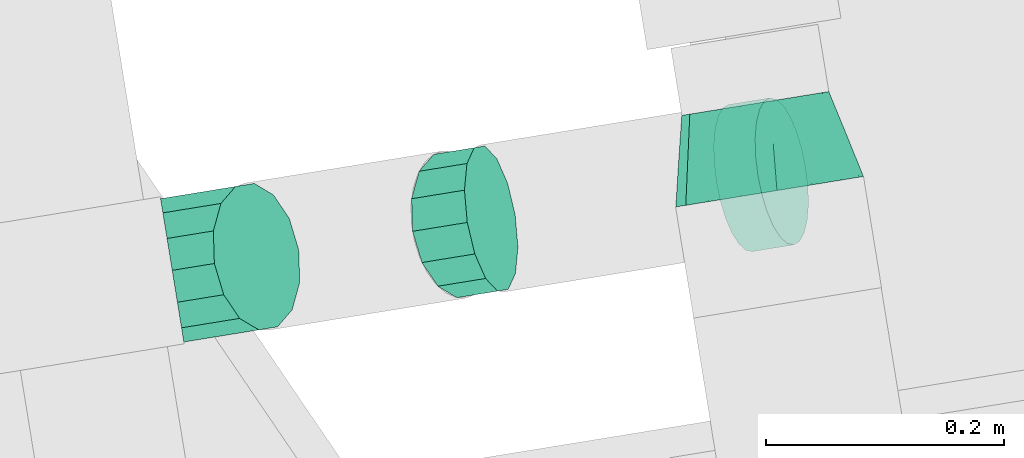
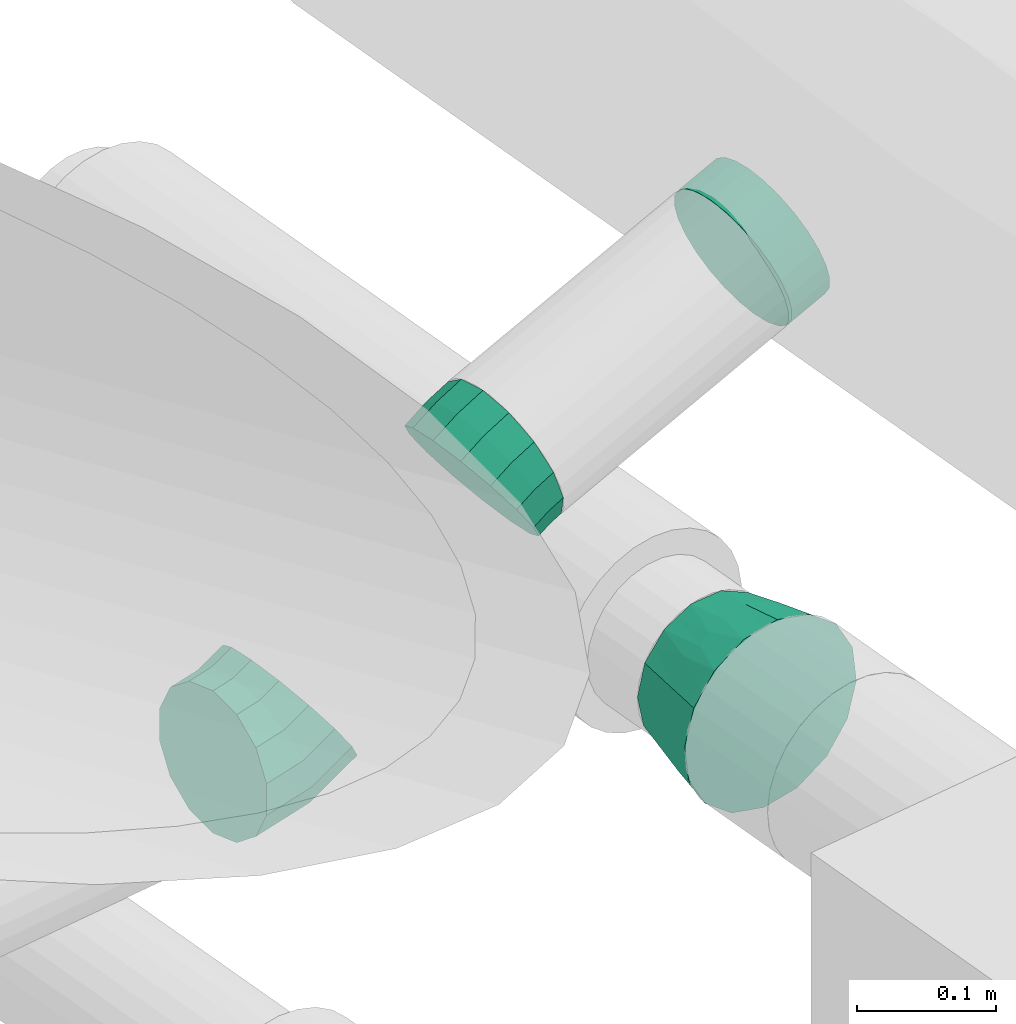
# One storey, part 32 of 39: 4 flow fittings.
"""IFC2X3 building model written with IfcOpenShell, lengths in millimetres."""

from ifc_helpers import new_model, entity, si_unit, converted_unit, derived_unit, direction, frame, origin, origin_with_axes, place, context, subcontext, project, spatial, faceted_brep, source, transform, mapped, material, type_object, element, save


model = new_model("IFC2X3")

# Units and contexts
plan_context = context("Plan", 3, precision=1e-05, world=origin_with_axes())
model_context = context("Model", 3, precision=0.01, world=origin(), true_north=direction((6.12323399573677e-17, 1.0)))
body_context = subcontext(model_context, "Body", "Model", "MODEL_VIEW")
ifc_project = project(units=[converted_unit("PLANEANGLEUNIT", "DEGREE", entity("IfcPositiveLengthMeasure", 0.0174532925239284), si_unit("PLANEANGLEUNIT", "RADIAN"), dimensions=[0, 0, 0, 0, 0, 0, 0]), si_unit("AREAUNIT", "SQUARE_METRE"), si_unit("LENGTHUNIT", "METRE", prefix="MILLI"), si_unit("MASSUNIT", "GRAM", prefix="KILO"), si_unit("POWERUNIT", "WATT"), si_unit("PRESSUREUNIT", "PASCAL", prefix="KILO"), si_unit("FORCEUNIT", "NEWTON", prefix="KILO"), si_unit("ELECTRICVOLTAGEUNIT", "VOLT"), si_unit("ELECTRICCURRENTUNIT", "AMPERE"), si_unit("THERMODYNAMICTEMPERATUREUNIT", "DEGREE_CELSIUS"), si_unit("TIMEUNIT", "SECOND"), si_unit("VOLUMEUNIT", "CUBIC_METRE"), derived_unit("LINEARVELOCITYUNIT", [(si_unit("LENGTHUNIT", "METRE"), 1), (si_unit("TIMEUNIT", "SECOND"), -1)]), derived_unit("VOLUMETRICFLOWRATEUNIT", [(si_unit("VOLUMEUNIT", "CUBIC_METRE"), 1), (si_unit("TIMEUNIT", "SECOND"), -1)]), derived_unit("THERMALTRANSMITTANCEUNIT", [(si_unit("POWERUNIT", "WATT"), 1), (si_unit("THERMODYNAMICTEMPERATUREUNIT", "KELVIN"), -1), (si_unit("AREAUNIT", "SQUARE_METRE"), -1)]), derived_unit("SOUNDPRESSUREUNIT", [(si_unit("PRESSUREUNIT", "PASCAL"), 1)])], contexts=[model_context, plan_context])

# Site, building, storey
site_placement = place(None, frame((-0.00071070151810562, 0.00438415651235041, 0.0), z_axis=(0.0, 0.0, 1.0), x_axis=(-0.160236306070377, 0.987078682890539, 0.0)))
site = spatial("IfcSite", under=ifc_project, at=site_placement, Name="Default", CompositionType="ELEMENT")
building_placement = place(site_placement, origin_with_axes())
building = spatial("IfcBuilding", under=site, at=building_placement, CompositionType="ELEMENT")
storey_placement = place(building_placement, frame((0.0, 0.0, 58999.9999999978), z_axis=(0.0, 0.0, 1.0), x_axis=(1.0, 0.0, 0.0)))
storey = spatial("IfcBuildingStorey", under=building, at=storey_placement, Name="Nivå F", CompositionType="ELEMENT", Elevation=58999.9999999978)

# Flow fittings
ifc_material_1 = material(Name="Material_Duct")
duct_fitting_type_1 = type_object("IfcDuctFittingType", Name="magicirc_reduction_001:magicirc_reduction_001", PredefinedType="NOTDEFINED", material=ifc_material_1)
shared_shape_1 = source(origin(), body_context, "Body", "Brep", [
    faceted_brep([(75.0, -38.9694843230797, 48.8651663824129), (75.0, -47.6407051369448, 37.9917994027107), (75.0, -56.3119259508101, 27.1184324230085), (75.0, -59.4066488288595, 13.5595655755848), (75.0, -62.501371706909, 0.000698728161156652), (75.0, -59.4066488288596, -13.5581681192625), (75.0, -56.3119259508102, -27.1170349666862), (75.0, -47.6407051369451, -37.9904019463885), (75.0, -38.96948432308, -48.8637689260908), (75.0, -26.4392072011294, -54.8980323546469), (75.0, -13.9089300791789, -60.932295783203), (75.0, -0.00137170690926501, -60.932295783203), (75.0, 13.9061866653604, -60.9322957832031), (75.0, 26.436463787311, -54.8980323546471), (75.0, 38.9667409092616, -48.8637689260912), (75.0, 47.6379617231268, -37.990401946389), (75.0, 56.3091825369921, -27.1170349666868), (75.0, 59.4039054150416, -13.5581681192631), (75.0, 62.4986282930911, 0.000698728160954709), (75.0, 59.4039054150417, 13.5595655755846), (75.0, 56.3091825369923, 27.1184324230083), (75.0, 47.6379617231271, 37.9917994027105), (75.0, 38.9667409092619, 48.8651663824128), (75.0, 26.4364637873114, 54.8994298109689), (75.0, 13.9061866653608, 60.9336932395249), (75.0, -0.00137170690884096, 60.9336932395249), (75.0, -13.9089300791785, 60.933693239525), (75.0, -26.4392072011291, 54.8994298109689), (0.0, 43.5916085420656, 65.2394525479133), (0.0, 56.5685424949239, 56.5685424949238), (0.0, 65.2394525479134, 43.5916085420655), (0.0, 73.910362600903, 30.6146745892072), (0.0, 77.4365919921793, 12.8871223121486), (0.0, 80.0, 0.0), (0.0, 76.9551813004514, -15.307337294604), (0.0, 73.9103626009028, -30.6146745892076), (0.0, 65.2394525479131, -43.5916085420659), (0.0, 56.5685424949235, -56.5685424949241), (0.0, 43.5916085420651, -65.2394525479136), (0.0, 30.6146745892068, -73.9103626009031), (0.0, 15.3073372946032, -76.9551813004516), (0.0, 0.0, -80.0), (0.0, -15.3073372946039, -76.9551813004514), (0.0, -30.6146745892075, -73.9103626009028), (0.0, -43.5916085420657, -65.2394525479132), (0.0, -56.568542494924, -56.5685424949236), (0.0, -65.2394525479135, -43.5916085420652), (0.0, -73.9103626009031, -30.6146745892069), (0.0, -77.4365972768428, -12.8870957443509), (0.0, -80.0, 0.0), (0.0, -76.9551813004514, 15.3073372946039), (0.0, -73.9103626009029, 30.6146745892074), (0.0, -65.2394525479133, 43.5916085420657), (0.0, -56.5685424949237, 56.5685424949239), (0.0, -43.5916085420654, 65.2394525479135), (0.0, -30.614674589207, 73.910362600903), (0.0, -15.3073372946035, 76.9551813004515), (0.0, 0.0, 80.0), (0.0, 15.3073372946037, 76.9551813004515), (0.0, 30.6146745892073, 73.9103626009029), (39.85366436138, -66.734047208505, -23.3506243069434), (37.5, -71.2506858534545, 0.000349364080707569), (31.965514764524, -72.5419645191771, 0.000297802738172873), (31.0011841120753, -63.522019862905, -35.4958038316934), (37.5000001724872, 7.82711410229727, -70.8183490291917), (38.6205531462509, 22.4581386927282, -67.3418465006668), (35.1463230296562, -55.5021668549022, -45.5485989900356), (34.3819963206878, -44.8982350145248, -56.2577492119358), (39.8536754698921, -23.3517257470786, -66.7329438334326), (37.4208837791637, -8.03029870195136, -70.8143302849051), (31.6636214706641, 35.01740055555, -63.60959216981), (34.8252355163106, 69.1400748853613, -19.6325536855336), (35.5386039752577, 63.2398594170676, -33.8024253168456), (35.1463247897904, 45.5482818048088, -55.5011975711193), (32.9746703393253, 55.8955228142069, -45.8665410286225), (37.5, 71.2493141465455, 0.000349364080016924), (31.9655806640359, 72.5407798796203, 0.000297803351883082), (39.8536643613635, 66.7325894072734, 23.3513668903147), (31.0011841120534, 63.5208858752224, 35.4963814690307), (37.5000001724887, -7.82848580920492, 70.8190477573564), (38.6205531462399, -22.4595513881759, 67.3425661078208), (35.1463230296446, 55.5008812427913, 45.549253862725), (34.3819963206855, 44.8969773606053, 56.2583898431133), (39.853675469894, 23.3502679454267, 66.7336864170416), (37.4208837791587, 8.02892988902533, 70.8150275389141), (31.6636214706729, -35.0185587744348, 63.6101821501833), (34.8252355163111, -69.1413487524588, 19.6332025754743), (35.5386039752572, -63.2411593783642, 33.8030874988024), (35.1463247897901, -45.5495674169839, 55.5018524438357), (32.9746703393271, -55.8967289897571, 45.8671554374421)], [[[0, 1, 2, 3, 4, 5, 6, 7, 8, 9, 10, 11, 12, 13, 14, 15, 16, 17, 18, 19, 20, 21, 22, 23, 24, 25, 26, 27]], [[28, 29, 30, 31, 32, 33, 34, 35, 36, 37, 38, 39, 40, 41, 42, 43, 44, 45, 46, 47, 48, 49, 50, 51, 52, 53, 54, 55, 56, 57, 58, 59]], [[5, 60, 6]], [[5, 4, 61, 62]], [[60, 63, 6]], [[62, 49, 48]], [[64, 40, 65]], [[66, 67, 8]], [[62, 48, 60]], [[60, 5, 62]], [[47, 60, 48]], [[45, 66, 46]], [[44, 68, 67]], [[66, 8, 7]], [[69, 10, 68]], [[47, 46, 63]], [[70, 39, 38]], [[68, 42, 69]], [[16, 71, 17]], [[67, 68, 9]], [[10, 9, 68]], [[71, 72, 35]], [[10, 69, 11]], [[64, 69, 41]], [[12, 64, 65]], [[14, 73, 15]], [[68, 44, 43]], [[63, 7, 6]], [[72, 71, 16]], [[66, 45, 67]], [[67, 9, 8]], [[64, 41, 40]], [[64, 11, 69]], [[66, 63, 46]], [[40, 39, 65]], [[12, 11, 64]], [[67, 45, 44]], [[73, 74, 15]], [[73, 70, 38]], [[13, 65, 70]], [[37, 73, 38]], [[13, 12, 65]], [[70, 14, 13]], [[36, 72, 74]], [[74, 37, 36]], [[35, 72, 36]], [[15, 72, 16]], [[17, 71, 75]], [[71, 35, 34]], [[34, 33, 76, 75]], [[15, 74, 72]], [[37, 74, 73]], [[70, 73, 14]], [[18, 17, 75]], [[39, 70, 65]], [[42, 68, 43]], [[42, 41, 69]], [[63, 66, 7]], [[47, 63, 60]], [[34, 75, 71]], [[19, 77, 20]], [[19, 18, 75, 76]], [[77, 78, 20]], [[76, 33, 32]], [[79, 56, 80]], [[81, 82, 22]], [[76, 32, 77]], [[77, 19, 76]], [[31, 77, 32]], [[29, 81, 30]], [[28, 83, 82]], [[81, 22, 21]], [[84, 24, 83]], [[31, 30, 78]], [[85, 55, 54]], [[83, 58, 84]], [[2, 86, 3]], [[82, 83, 23]], [[24, 23, 83]], [[86, 87, 51]], [[24, 84, 25]], [[79, 84, 57]], [[26, 79, 80]], [[0, 88, 1]], [[83, 28, 59]], [[78, 21, 20]], [[87, 86, 2]], [[81, 29, 82]], [[82, 23, 22]], [[79, 57, 56]], [[79, 25, 84]], [[81, 78, 30]], [[56, 55, 80]], [[26, 25, 79]], [[82, 29, 28]], [[88, 89, 1]], [[88, 85, 54]], [[27, 80, 85]], [[53, 88, 54]], [[27, 26, 80]], [[85, 0, 27]], [[52, 87, 89]], [[89, 53, 52]], [[51, 87, 52]], [[1, 87, 2]], [[3, 86, 61]], [[86, 51, 50]], [[50, 49, 62, 61]], [[1, 89, 87]], [[53, 89, 88]], [[85, 88, 0]], [[4, 3, 61]], [[55, 85, 80]], [[58, 83, 59]], [[58, 57, 84]], [[78, 81, 21]], [[31, 78, 77]], [[50, 61, 86]]]),
])
flow_fitting_1_placement = place(storey_placement, frame((773118.057567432, -503041.020073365, 2617.0), z_axis=(-1.73404774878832e-05, -0.453891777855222, 0.891056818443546), x_axis=(0.999999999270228, -3.82039911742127e-05, 0.0)))
element("IfcFlowFitting", 1, at=flow_fitting_1_placement, inside=storey, type_object=duct_fitting_type_1, material=ifc_material_1, Name="magicirc_reduction_001:magicirc_reduction_001", ObjectType="magicirc_reduction_001:magicirc_reduction_001", context=body_context, shape_type="MappedRepresentation", body=[
    mapped(shared_shape_1, transform((0.0, 0.0, 0.0), scale=1.0)),
])
ifc_material_2 = material(Name="<Unnamed>")
duct_fitting_type_2 = type_object("IfcDuctFittingType", Name="magicirc_tapoutlet_1:magicirc_tapoutlet_001", PredefinedType="NOTDEFINED", material=ifc_material_2)
shared_shape_2 = source(origin(), body_context, "Body", "Brep", [
    faceted_brep([(-12.3586520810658, 0.0, -62.500000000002), (-12.3586520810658, -16.1761903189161, -60.3703641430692), (-12.3586520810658, -31.2500000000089, -54.1265877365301), (-12.3586520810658, -44.1941738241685, -44.194173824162), (-12.3586520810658, -54.126587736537, -31.2500000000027), (-12.3586520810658, -60.3703641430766, -16.1761903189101), (-12.3586520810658, -62.5000000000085, 0.0), (-12.3586520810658, -60.3703641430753, 16.176190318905), (-12.3586520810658, -54.1265877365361, 31.2499999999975), (-12.3586520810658, -44.194173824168, 44.1941738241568), (-12.3586520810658, -31.2500000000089, 54.126587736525), (-12.3586520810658, -16.1761903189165, 60.3703641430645), (-12.3586520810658, 0.0, 62.4999999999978), (-12.3586520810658, 16.1761903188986, 60.3703641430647), (-12.3586520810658, 31.249999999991, 54.1265877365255), (-12.3586520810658, 44.1941738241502, 44.1941738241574), (-12.3586520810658, 54.1265877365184, 31.2499999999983), (-12.3586520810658, 60.3703641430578, 16.176190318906), (-12.3586520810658, 62.4999999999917, 0.0), (-12.3586520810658, 60.3703641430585, -16.1761903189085), (-12.3586520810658, 54.1265877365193, -31.2500000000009), (-12.3586520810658, 44.1941738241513, -44.1941738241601), (-12.3586520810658, 31.2499999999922, -54.1265877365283), (-12.3586520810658, 16.1761903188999, -60.3703641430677), (0.0, 0.0, 62.4999999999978), (25.0, 0.0, 62.4999999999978), (25.0, 16.1761903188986, 60.3703641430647), (0.0, 16.1761903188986, 60.3703641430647), (25.0, 31.249999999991, 54.1265877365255), (0.0, 31.249999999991, 54.1265877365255), (25.0, 44.1941738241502, 44.1941738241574), (0.0, 44.1941738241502, 44.1941738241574), (0.0, 54.1265877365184, 31.2499999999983), (25.0, 54.1265877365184, 31.2499999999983), (25.0, 60.3703641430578, 16.176190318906), (0.0, 60.3703641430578, 16.176190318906), (25.0, 62.4999999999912, 0.0), (0.0, 62.4999999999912, 0.0), (25.0, 60.3703641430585, -16.1761903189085), (0.0, 60.3703641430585, -16.1761903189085), (25.0, 54.1265877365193, -31.2500000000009), (0.0, 54.1265877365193, -31.2500000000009), (25.0, 44.1941738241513, -44.1941738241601), (0.0, 44.1941738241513, -44.1941738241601), (0.0, 31.2499999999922, -54.1265877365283), (25.0, 31.2499999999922, -54.1265877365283), (25.0, 16.1761903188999, -60.3703641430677), (0.0, 16.1761903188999, -60.3703641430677), (25.0, 0.0, -62.5000000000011), (0.0, 0.0, -62.5000000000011), (25.0, -16.1761903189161, -60.3703641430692), (0.0, -16.1761903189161, -60.3703641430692), (25.0, -31.2500000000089, -54.1265877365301), (0.0, -31.2500000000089, -54.1265877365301), (25.0, -44.1941738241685, -44.194173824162), (0.0, -44.1941738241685, -44.194173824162), (0.0, -54.126587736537, -31.2500000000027), (25.0, -54.126587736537, -31.2500000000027), (25.0, -60.3703641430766, -16.1761903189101), (0.0, -60.3703641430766, -16.1761903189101), (25.0, -62.5000000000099, 0.0), (0.0, -62.5000000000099, 0.0), (25.0, -60.3703641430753, 16.176190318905), (0.0, -60.3703641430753, 16.176190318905), (25.0, -54.1265877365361, 31.2499999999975), (0.0, -54.1265877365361, 31.2499999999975), (25.0, -44.194173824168, 44.1941738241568), (0.0, -44.194173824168, 44.1941738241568), (0.0, -31.2500000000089, 54.126587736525), (25.0, -31.2500000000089, 54.126587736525), (25.0, -16.1761903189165, 60.3703641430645), (0.0, -16.1761903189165, 60.3703641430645)], [[[0, 1, 2, 3, 4, 5, 6, 7, 8, 9, 10, 11, 12, 13, 14, 15, 16, 17, 18, 19, 20, 21, 22, 23]], [[12, 24, 25, 26, 27, 13]], [[13, 27, 26, 28, 29, 14]], [[14, 29, 28, 30, 31, 15]], [[16, 32, 33, 34, 35, 17]], [[17, 35, 34, 36, 37, 18]], [[15, 31, 30, 33, 32, 16]], [[18, 37, 36, 38, 39, 19]], [[19, 39, 38, 40, 41, 20]], [[20, 41, 40, 42, 43, 21]], [[22, 44, 45, 46, 47, 23]], [[23, 47, 46, 48, 49, 0]], [[21, 43, 42, 45, 44, 22]], [[0, 49, 48, 50, 51, 1]], [[1, 51, 50, 52, 53, 2]], [[2, 53, 52, 54, 55, 3]], [[4, 56, 57, 58, 59, 5]], [[5, 59, 58, 60, 61, 6]], [[3, 55, 54, 57, 56, 4]], [[6, 61, 60, 62, 63, 7]], [[7, 63, 62, 64, 65, 8]], [[8, 65, 64, 66, 67, 9]], [[10, 68, 69, 70, 71, 11]], [[11, 71, 70, 25, 24, 12]], [[9, 67, 66, 69, 68, 10]], [[46, 45, 42, 40, 38, 36, 34, 33, 30, 28, 26, 25, 70, 69, 66, 64, 62, 60, 58, 57, 54, 52, 50, 48]]]),
    faceted_brep([(25.0, 16.1761903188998, -60.3703641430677), (25.0, 31.2499999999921, -54.1265877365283), (25.0, 44.1941738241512, -44.1941738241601), (25.0, 54.1265877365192, -31.2500000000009), (25.0, 60.3703641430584, -16.1761903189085), (25.0, 62.4999999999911, 0.0), (25.0, 60.3703641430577, 16.176190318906), (25.0, 54.1265877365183, 31.2499999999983), (25.0, 44.1941738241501, 44.1941738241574), (25.0, 31.2499999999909, 54.1265877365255), (25.0, 16.1761903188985, 60.3703641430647), (25.0, 0.0, 62.4999999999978), (25.0, -16.1761903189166, 60.3703641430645), (25.0, -31.250000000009, 54.126587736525), (25.0, -44.1941738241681, 44.1941738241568), (25.0, -54.1265877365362, 31.2499999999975), (25.0, -60.3703641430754, 16.176190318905), (25.0, -62.50000000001, 0.0), (25.0, -60.3703641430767, -16.1761903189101), (25.0, -54.1265877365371, -31.2500000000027), (25.0, -44.1941738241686, -44.194173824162), (25.0, -31.250000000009, -54.1265877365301), (25.0, -16.1761903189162, -60.3703641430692), (25.0, 0.0, -62.5000000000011), (0.0, 0.0, 62.4999999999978), (0.0, 16.1761903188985, 60.3703641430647), (-12.3586520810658, 16.1761903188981, 60.3703641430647), (-12.3586520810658, 0.0, 62.4999999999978), (0.0, 31.2499999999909, 54.1265877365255), (-12.3586520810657, 31.2499999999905, 54.1265877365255), (0.0, 44.1941738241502, 44.1941738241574), (-12.3586520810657, 44.1941738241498, 44.1941738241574), (0.0, 54.1265877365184, 31.2499999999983), (0.0, 60.3703641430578, 16.176190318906), (-12.3586520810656, 60.3703641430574, 16.176190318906), (-12.3586520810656, 54.126587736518, 31.2499999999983), (0.0, 62.4999999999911, 0.0), (-12.3586520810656, 62.4999999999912, 0.0), (0.0, 60.3703641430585, -16.1761903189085), (-12.3586520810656, 60.3703641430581, -16.1761903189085), (0.0, 54.1265877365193, -31.2500000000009), (-12.3586520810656, 54.1265877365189, -31.2500000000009), (0.0, 44.1941738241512, -44.1941738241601), (-12.3586520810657, 44.1941738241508, -44.1941738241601), (0.0, 31.2499999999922, -54.1265877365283), (0.0, 16.1761903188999, -60.3703641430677), (-12.3586520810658, 16.1761903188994, -60.3703641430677), (-12.3586520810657, 31.2499999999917, -54.1265877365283), (0.0, 0.0, -62.5000000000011), (-12.3586520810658, 0.0, -62.500000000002), (0.0, -16.1761903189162, -60.3703641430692), (-12.3586520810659, -16.1761903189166, -60.3703641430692), (0.0, -31.250000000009, -54.1265877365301), (-12.3586520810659, -31.2500000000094, -54.1265877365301), (0.0, -44.1941738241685, -44.194173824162), (-12.358652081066, -44.194173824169, -44.194173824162), (0.0, -54.126587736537, -31.2500000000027), (0.0, -60.3703641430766, -16.1761903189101), (-12.358652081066, -60.3703641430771, -16.1761903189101), (-12.358652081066, -54.1265877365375, -31.2500000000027), (0.0, -62.50000000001, 0.0), (-12.358652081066, -62.5000000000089, 0.0), (0.0, -60.3703641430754, 16.176190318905), (-12.358652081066, -60.3703641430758, 16.176190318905), (0.0, -54.1265877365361, 31.2499999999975), (-12.358652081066, -54.1265877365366, 31.2499999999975), (0.0, -44.194173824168, 44.1941738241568), (-12.358652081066, -44.1941738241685, 44.1941738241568), (0.0, -31.2500000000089, 54.126587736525), (0.0, -16.1761903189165, 60.3703641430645), (-12.3586520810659, -16.176190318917, 60.3703641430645), (-12.3586520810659, -31.2500000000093, 54.126587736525)], [[[0, 1, 2, 3, 4, 5, 6, 7, 8, 9, 10, 11, 12, 13, 14, 15, 16, 17, 18, 19, 20, 21, 22, 23]], [[24, 11, 10, 25, 26, 27]], [[25, 10, 9, 28, 29, 26]], [[28, 9, 8, 30, 31, 29]], [[32, 7, 6, 33, 34, 35]], [[33, 6, 5, 36, 37, 34]], [[30, 8, 7, 32, 35, 31]], [[36, 5, 4, 38, 39, 37]], [[38, 4, 3, 40, 41, 39]], [[40, 3, 2, 42, 43, 41]], [[44, 1, 0, 45, 46, 47]], [[45, 0, 23, 48, 49, 46]], [[42, 2, 1, 44, 47, 43]], [[48, 23, 22, 50, 51, 49]], [[50, 22, 21, 52, 53, 51]], [[52, 21, 20, 54, 55, 53]], [[56, 19, 18, 57, 58, 59]], [[57, 18, 17, 60, 61, 58]], [[54, 20, 19, 56, 59, 55]], [[60, 17, 16, 62, 63, 61]], [[62, 16, 15, 64, 65, 63]], [[64, 15, 14, 66, 67, 65]], [[68, 13, 12, 69, 70, 71]], [[69, 12, 11, 24, 27, 70]], [[66, 14, 13, 68, 71, 67]], [[49, 51, 53, 55, 59, 58, 61, 63, 65, 67, 71, 70, 27, 26, 29, 31, 35, 34, 37, 39, 41, 43, 47, 46]]]),
    faceted_brep([(-12.3586520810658, 0.0, -62.500000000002), (-12.3586520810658, -16.1761903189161, -60.3703641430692), (-12.3586520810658, -31.2500000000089, -54.1265877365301), (-12.3586520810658, -44.1941738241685, -44.194173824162), (-12.3586520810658, -54.126587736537, -31.2500000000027), (-12.3586520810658, -60.3703641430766, -16.1761903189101), (-12.3586520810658, -62.5000000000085, 0.0), (-12.3586520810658, -60.3703641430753, 16.176190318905), (-12.3586520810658, -54.1265877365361, 31.2499999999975), (-12.3586520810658, -44.194173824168, 44.1941738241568), (-12.3586520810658, -31.2500000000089, 54.126587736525), (-12.3586520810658, -16.1761903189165, 60.3703641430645), (-12.3586520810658, 0.0, 62.4999999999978), (-12.3586520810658, 16.1761903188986, 60.3703641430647), (-12.3586520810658, 31.249999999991, 54.1265877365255), (-12.3586520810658, 44.1941738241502, 44.1941738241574), (-12.3586520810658, 54.1265877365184, 31.2499999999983), (-12.3586520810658, 60.3703641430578, 16.176190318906), (-12.3586520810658, 62.4999999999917, 0.0), (-12.3586520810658, 60.3703641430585, -16.1761903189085), (-12.3586520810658, 54.1265877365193, -31.2500000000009), (-12.3586520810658, 44.1941738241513, -44.1941738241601), (-12.3586520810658, 31.2499999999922, -54.1265877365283), (-12.3586520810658, 16.1761903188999, -60.3703641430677), (0.0, 0.0, 62.4999999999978), (25.0, 0.0, 62.4999999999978), (25.0, 16.1761903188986, 60.3703641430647), (0.0, 16.1761903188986, 60.3703641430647), (25.0, 31.249999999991, 54.1265877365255), (0.0, 31.249999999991, 54.1265877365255), (25.0, 44.1941738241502, 44.1941738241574), (0.0, 44.1941738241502, 44.1941738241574), (0.0, 54.1265877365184, 31.2499999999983), (25.0, 54.1265877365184, 31.2499999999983), (25.0, 60.3703641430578, 16.176190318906), (0.0, 60.3703641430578, 16.176190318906), (25.0, 62.4999999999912, 0.0), (0.0, 62.4999999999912, 0.0), (25.0, 60.3703641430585, -16.1761903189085), (0.0, 60.3703641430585, -16.1761903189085), (25.0, 54.1265877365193, -31.2500000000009), (0.0, 54.1265877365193, -31.2500000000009), (25.0, 44.1941738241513, -44.1941738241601), (0.0, 44.1941738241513, -44.1941738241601), (0.0, 31.2499999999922, -54.1265877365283), (25.0, 31.2499999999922, -54.1265877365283), (25.0, 16.1761903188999, -60.3703641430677), (0.0, 16.1761903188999, -60.3703641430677), (25.0, 0.0, -62.5000000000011), (0.0, 0.0, -62.5000000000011), (25.0, -16.1761903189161, -60.3703641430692), (0.0, -16.1761903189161, -60.3703641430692), (25.0, -31.2500000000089, -54.1265877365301), (0.0, -31.2500000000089, -54.1265877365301), (25.0, -44.1941738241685, -44.194173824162), (0.0, -44.1941738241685, -44.194173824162), (0.0, -54.126587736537, -31.2500000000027), (25.0, -54.126587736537, -31.2500000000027), (25.0, -60.3703641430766, -16.1761903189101), (0.0, -60.3703641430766, -16.1761903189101), (25.0, -62.5000000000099, 0.0), (0.0, -62.5000000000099, 0.0), (25.0, -60.3703641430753, 16.176190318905), (0.0, -60.3703641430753, 16.176190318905), (25.0, -54.1265877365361, 31.2499999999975), (0.0, -54.1265877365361, 31.2499999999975), (25.0, -44.194173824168, 44.1941738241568), (0.0, -44.194173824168, 44.1941738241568), (0.0, -31.2500000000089, 54.126587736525), (25.0, -31.2500000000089, 54.126587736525), (25.0, -16.1761903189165, 60.3703641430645), (0.0, -16.1761903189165, 60.3703641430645)], [[[0, 1, 2, 3, 4, 5, 6, 7, 8, 9, 10, 11, 12, 13, 14, 15, 16, 17, 18, 19, 20, 21, 22, 23]], [[12, 24, 25, 26, 27, 13]], [[13, 27, 26, 28, 29, 14]], [[14, 29, 28, 30, 31, 15]], [[16, 32, 33, 34, 35, 17]], [[17, 35, 34, 36, 37, 18]], [[15, 31, 30, 33, 32, 16]], [[18, 37, 36, 38, 39, 19]], [[19, 39, 38, 40, 41, 20]], [[20, 41, 40, 42, 43, 21]], [[22, 44, 45, 46, 47, 23]], [[23, 47, 46, 48, 49, 0]], [[21, 43, 42, 45, 44, 22]], [[0, 49, 48, 50, 51, 1]], [[1, 51, 50, 52, 53, 2]], [[2, 53, 52, 54, 55, 3]], [[4, 56, 57, 58, 59, 5]], [[5, 59, 58, 60, 61, 6]], [[3, 55, 54, 57, 56, 4]], [[6, 61, 60, 62, 63, 7]], [[7, 63, 62, 64, 65, 8]], [[8, 65, 64, 66, 67, 9]], [[10, 68, 69, 70, 71, 11]], [[11, 71, 70, 25, 24, 12]], [[9, 67, 66, 69, 68, 10]], [[46, 45, 42, 40, 38, 36, 34, 33, 30, 28, 26, 25, 70, 69, 66, 64, 62, 60, 58, 57, 54, 52, 50, 48]]]),
])
flow_fitting_2_placement = place(storey_placement, frame((773133.264064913, -503042.170323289, 3027.44618896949), z_axis=(-4.92312213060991e-19, -0.325568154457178, -0.94551857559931), x_axis=(2.77555756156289e-17, 0.94551857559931, -0.325568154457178)))
element("IfcFlowFitting", 2, at=flow_fitting_2_placement, inside=storey, type_object=duct_fitting_type_2, material=ifc_material_2, Name="magicirc_tapoutlet_1:magicirc_tapoutlet_001", ObjectType="magicirc_tapoutlet_1:magicirc_tapoutlet_001", context=body_context, shape_type="MappedRepresentation", body=[
    mapped(shared_shape_2, transform((0.0, 0.0, 0.0), scale=1.0)),
])
duct_fitting_type_3 = type_object("IfcDuctFittingType", Name="magicirc_elbow_full_radius_1:magicirc_elbow_full_radius_001", PredefinedType="NOTDEFINED", material=ifc_material_2)
shared_shape_3 = source(origin(), body_context, "Body", "Brep", [
    faceted_brep([(8.52735209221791, -60.6752628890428, 0.0), (7.66594773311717, -54.5460523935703, 27.1177336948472), (-17.5676043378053, -56.3105542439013, 27.1177336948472), (-17.5676043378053, -62.5, 0.0), (5.25234635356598, -37.3723862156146, 48.8644676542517), (-17.5676043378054, -38.968112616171, 48.8644676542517), (1.76459130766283, -12.5557195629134, 60.9329945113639), (-17.5676043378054, -13.9075583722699, 60.9329945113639), (-2.1065247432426, 14.9887023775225, 60.932994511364), (-17.5676043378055, 13.9075583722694, 60.932994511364), (-5.59427978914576, 39.8053690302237, 48.8644676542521), (-17.5676043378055, 38.9681126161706, 48.8644676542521), (-8.00788116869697, 56.9790352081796, 27.1177336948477), (-17.5676043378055, 56.3105542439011, 27.1177336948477), (-8.86928552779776, 63.1082457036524, 0.0), (-17.5676043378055, 62.5, 0.0), (-8.007881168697, 56.9790352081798, -27.1177336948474), (-17.5676043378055, 56.3105542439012, -27.1177336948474), (-5.5942797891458, 39.805369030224, -48.8644676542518), (-17.5676043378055, 38.9681126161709, -48.8644676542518), (-2.10652474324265, 14.9887023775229, -60.932994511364), (-17.5676043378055, 13.9075583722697, -60.932994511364), (1.76459130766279, -12.5557195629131, -60.932994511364), (-17.5676043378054, -13.9075583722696, -60.932994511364), (5.25234635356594, -37.3723862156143, -48.8644676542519), (-17.5676043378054, -38.9681126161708, -48.8644676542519), (7.66594773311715, -54.5460523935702, -27.1177336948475), (-17.5676043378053, -56.3105542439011, -27.1177336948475), (34.1143998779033, -55.2365679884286, 0.0), (32.4083574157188, -49.2868908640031, 27.1177336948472), (27.6281326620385, -32.6162660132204, 48.8644676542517), (20.7205077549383, -8.52651513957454, 60.9329945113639), (13.0536225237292, 18.2110911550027, 60.932994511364), (6.14599761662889, 42.3008420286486, 48.8644676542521), (1.36577286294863, 58.9714668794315, 27.1177336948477), (-0.340269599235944, 64.9211440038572, 0.0), (1.36577286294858, 58.9714668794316, -27.1177336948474), (6.14599761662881, 42.3008420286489, -48.8644676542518), (13.0536225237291, 18.211091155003, -60.932994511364), (20.7205077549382, -8.52651513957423, -60.932994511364), (27.6281326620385, -32.6162660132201, -48.8644676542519), (32.4083574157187, -49.286890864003, -27.1177336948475)], [[[0, 1, 2, 3]], [[1, 4, 5, 2]], [[4, 6, 7, 5]], [[6, 8, 9, 7]], [[8, 10, 11, 9]], [[10, 12, 13, 11]], [[12, 14, 15, 13]], [[14, 16, 17, 15]], [[16, 18, 19, 17]], [[18, 20, 21, 19]], [[20, 22, 23, 21]], [[22, 24, 25, 23]], [[24, 26, 27, 25]], [[26, 0, 3, 27]], [[28, 29, 1, 0]], [[29, 30, 4, 1]], [[30, 31, 6, 4]], [[31, 32, 8, 6]], [[32, 33, 10, 8]], [[33, 34, 12, 10]], [[34, 35, 14, 12]], [[35, 36, 16, 14]], [[36, 37, 18, 16]], [[37, 38, 20, 18]], [[38, 39, 22, 20]], [[39, 40, 24, 22]], [[40, 41, 26, 24]], [[41, 28, 0, 26]], [[3, 2, 5, 7, 9, 11, 13, 15, 17, 19, 21, 23, 25, 27]], [[41, 40, 39, 38, 37, 36, 35, 34, 33, 32, 31, 30, 29, 28]]]),
])
flow_fitting_3_placement = place(storey_placement, frame((773133.264064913, -502790.164964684, 2940.67378530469), z_axis=(-1.0, 2.25908288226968e-18, 6.56085308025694e-18), x_axis=(0.0, 0.945518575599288, -0.325568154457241)))
element("IfcFlowFitting", 3, at=flow_fitting_3_placement, inside=storey, type_object=duct_fitting_type_3, material=ifc_material_2, Name="magicirc_elbow_full_radius_1:magicirc_elbow_full_radius_001", ObjectType="magicirc_elbow_full_radius_1:magicirc_elbow_full_radius_001", context=body_context, shape_type="MappedRepresentation", body=[
    mapped(shared_shape_3, transform((0.0, 0.0, 0.0), scale=1.0)),
])
duct_fitting_type_4 = type_object("IfcDuctFittingType", Name="magicirc_elbow_full_radius_1:magicirc_elbow_full_radius_001", PredefinedType="NOTDEFINED", material=ifc_material_2)
shared_shape_4 = source(origin(), body_context, "Body", "Brep", [
    faceted_brep([(16.9699887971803, -53.8219282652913, 0.0), (15.1087865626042, -47.9189489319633, 27.1177336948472), (-39.4123486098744, -56.3105542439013, 27.1177336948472), (-39.4123486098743, -62.5, 0.0), (9.89381378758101, -31.3791683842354, 48.8644676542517), (-39.4123486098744, -38.968112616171, 48.8644676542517), (2.35795978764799, -7.47849300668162, 60.9329945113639), (-39.4123486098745, -13.9075583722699, 60.9329945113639), (-6.00620713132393, 19.0492553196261, 60.932994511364), (-39.4123486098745, 13.9075583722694, 60.932994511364), (-13.542061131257, 42.94993069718, 48.8644676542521), (-39.4123486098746, 38.9681126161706, 48.8644676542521), (-18.7570339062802, 59.4897112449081, 27.1177336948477), (-39.4123486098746, 56.3105542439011, 27.1177336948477), (-20.6182361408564, 65.3926905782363, 0.0), (-39.4123486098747, 62.5, 0.0), (-18.7570339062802, 59.4897112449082, -27.1177336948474), (-39.4123486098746, 56.3105542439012, -27.1177336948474), (-13.5420611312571, 42.9499306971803, -48.8644676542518), (-39.4123486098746, 38.9681126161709, -48.8644676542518), (-6.00620713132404, 19.0492553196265, -60.932994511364), (-39.4123486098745, 13.9075583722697, -60.932994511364), (2.3579597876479, -7.47849300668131, -60.932994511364), (-39.4123486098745, -13.9075583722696, -60.932994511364), (9.89381378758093, -31.3791683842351, -48.8644676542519), (-39.4123486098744, -38.9681126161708, -48.8644676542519), (15.1087865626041, -47.9189489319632, -27.1177336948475), (-39.4123486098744, -56.3105542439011, -27.1177336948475), (68.1332332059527, -28.5910083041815, 0.0), (64.5831129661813, -23.5209111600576, 27.1177336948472), (54.6358970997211, -9.31481464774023, 48.8644676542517), (40.2617537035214, 11.213589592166, 60.9329945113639), (24.3076581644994, 33.9983993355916, 60.932994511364), (9.9335147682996, 54.5268035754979, 48.8644676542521), (-0.0137010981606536, 68.7329000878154, 27.1177336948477), (-3.5638213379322, 73.8029972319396, 0.0), (-0.0137010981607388, 68.7329000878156, -27.1177336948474), (9.93351476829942, 54.5268035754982, -48.8644676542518), (24.3076581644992, 33.9983993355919, -60.932994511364), (40.2617537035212, 11.2135895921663, -60.932994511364), (54.635897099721, -9.31481464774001, -48.8644676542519), (64.5831129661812, -23.5209111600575, -27.1177336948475)], [[[0, 1, 2, 3]], [[1, 4, 5, 2]], [[4, 6, 7, 5]], [[6, 8, 9, 7]], [[8, 10, 11, 9]], [[10, 12, 13, 11]], [[12, 14, 15, 13]], [[14, 16, 17, 15]], [[16, 18, 19, 17]], [[18, 20, 21, 19]], [[20, 22, 23, 21]], [[22, 24, 25, 23]], [[24, 26, 27, 25]], [[26, 0, 3, 27]], [[28, 29, 1, 0]], [[29, 30, 4, 1]], [[30, 31, 6, 4]], [[31, 32, 8, 6]], [[32, 33, 10, 8]], [[33, 34, 12, 10]], [[34, 35, 14, 12]], [[35, 36, 16, 14]], [[36, 37, 18, 16]], [[37, 38, 20, 18]], [[38, 39, 22, 20]], [[39, 40, 24, 22]], [[40, 41, 26, 24]], [[41, 28, 0, 26]], [[3, 2, 5, 7, 9, 11, 13, 15, 17, 19, 21, 23, 25, 27]], [[41, 40, 39, 38, 37, 36, 35, 34, 33, 32, 31, 30, 29, 28]]]),
])
flow_fitting_4_placement = place(storey_placement, frame((773133.264064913, -502574.980498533, 2790.0), z_axis=(-1.0, 0.0, 0.0), x_axis=(0.0, -1.0, 0.0)))
element("IfcFlowFitting", 4, at=flow_fitting_4_placement, inside=storey, type_object=duct_fitting_type_4, material=ifc_material_2, Name="magicirc_elbow_full_radius_1:magicirc_elbow_full_radius_001", ObjectType="magicirc_elbow_full_radius_1:magicirc_elbow_full_radius_001", context=body_context, shape_type="MappedRepresentation", body=[
    mapped(shared_shape_4, transform((0.0, 0.0, 0.0), scale=1.0)),
])

save(model, "model.ifc")
